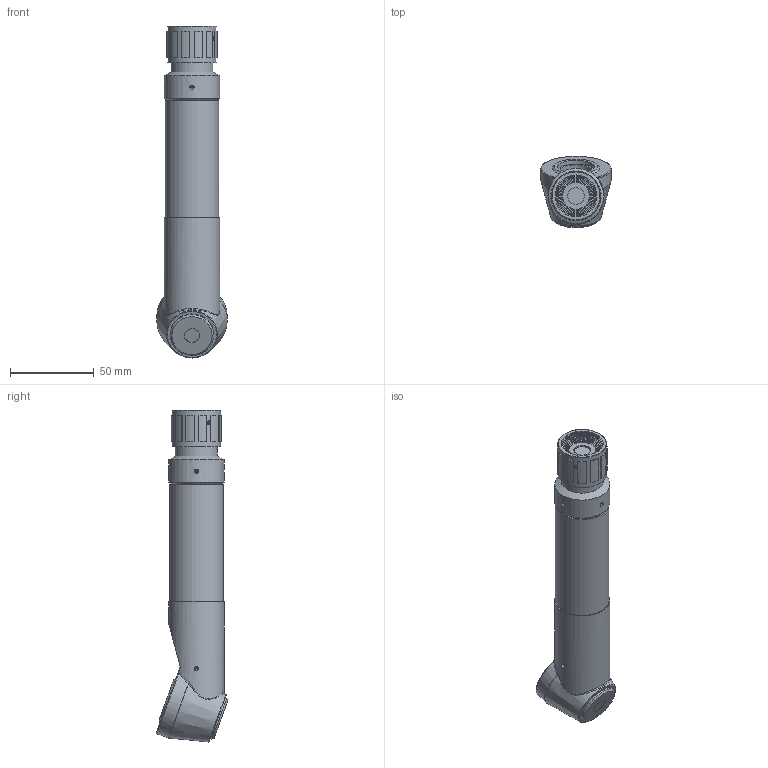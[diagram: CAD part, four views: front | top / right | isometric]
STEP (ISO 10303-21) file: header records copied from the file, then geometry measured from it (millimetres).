
FILE_DESCRIPTION(/* description */ (''),/* implementation_level */ '2;1');
FILE_NAME(/* name */ '\\SERVEUR-09\Entreprise\Bureau-Technique\Produits Web\microscopes\optiques\MA 117SZ-2.stp',/* time_stamp */ '2019-02-18T13:19:39+01:00',/* author */ ('ms'),/* organization */ ('Marcel Aubert'),/* preprocessor_version */ 'ST-DEVELOPER v17.2',/* originating_system */ 'Autodesk Inventor 2019',/* authorisation */ '');
FILE_SCHEMA (('CONFIG_CONTROL_DESIGN'));
Length unit declared in the file: millimetre
Products named in the file (1): Pièce1
Bounding box: 42 x 42.6 x 198.18 mm (x, y, z)
Volume: 98455.6 mm3; surface area: 46839.3 mm2
Topology: 1 solids, 13 shells, 441 faces, 1129 edges, 779 vertices
Faces by surface type: plane 239, cylinder 124, cone 57, bspline 13, torus 5, sphere 3
Full cylindrical faces by diameter (mm): 1.567 x4, 1.75 x1, 2.013 x6, 2.459 x12, 3 x4, 7.2 x1, 9 x1, 10 x3, 11 x2, 11.5 x1, 12.8 x1, 13 x3, 14 x6, 15 x1, 15.3 x1, 15.5 x1, 16 x1, 16.46 x1, 16.5 x1, 17 x2, 18 x5, 19 x2, 19.188 x1, 19.5 x1, 20 x4, 21 x1, 21.5 x1, 22 x2, 22.4 x2, 23 x1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
Entity records: 15917 total; most frequent: CARTESIAN_POINT 4421, DIRECTION 2311, ORIENTED_EDGE 2260, EDGE_CURVE 1130, AXIS2_PLACEMENT_3D 930, VERTEX_POINT 780, EDGE_LOOP 544, CIRCLE 479
